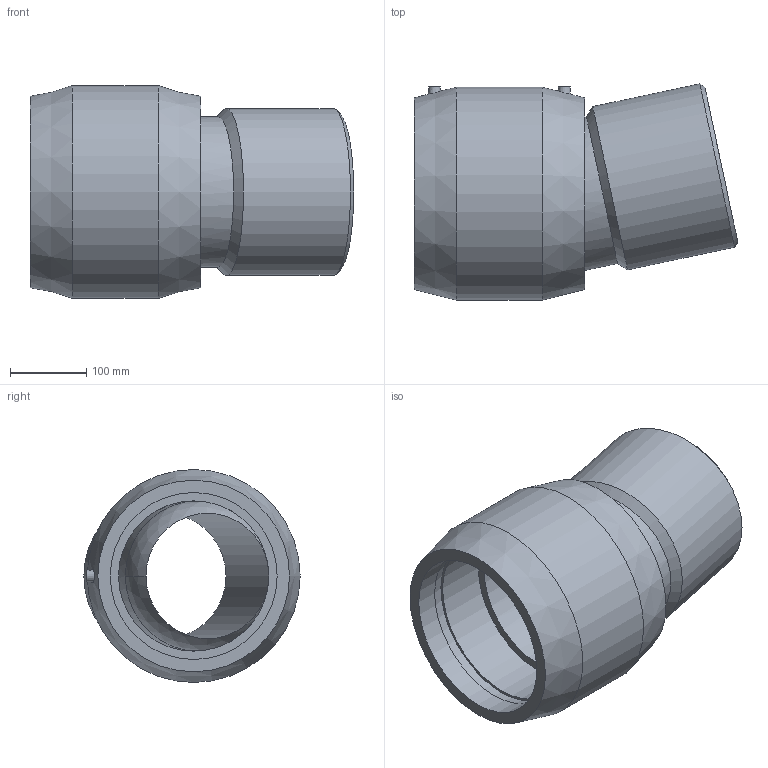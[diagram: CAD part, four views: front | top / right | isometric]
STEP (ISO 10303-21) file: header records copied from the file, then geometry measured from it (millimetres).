
FILE_DESCRIPTION(/* description */ ('PLASSON ADJUSTABLE ELBOW (ONE SIDE) ASTM 8'''' IPS'),/* implementation_level */ '2;1');
FILE_NAME(/* name */ 'C:\Dropbox\KIMPROJECTS-Inventor 2019\99-16-3568-Processing Inch\ASTM ElectroFusion 2021\5947BOS\5947B0S3080.ipt.stp',/* time_stamp */ '2021-08-30T09:53:11+03:00',/* author */ ('KIM'),/* organization */ (''),/* preprocessor_version */ 'ST-DEVELOPER v17.2',/* originating_system */ 'Autodesk Inventor 2019',/* authorisation */ '');
FILE_SCHEMA (('AUTOMOTIVE_DESIGN { 1 0 10303 214 3 1 1 }'));
Length unit declared in the file: inch
Products named in the file (1): 5947B0S3080
Bounding box: 423.78 x 283.32 x 278.89 mm (x, y, z)
Volume: 8728264.3 mm3; surface area: 673665.8 mm2
Topology: 1 solids, 1 shells, 32 faces, 74 edges, 51 vertices
Faces by surface type: cylinder 12, plane 11, cone 7, sphere 2
Full cylindrical faces by diameter (mm): 4 x2, 10 x2, 164.435 x1, 196.83 x2, 218.7 x3, 278.892 x1
Entity records: 1109 total; most frequent: CARTESIAN_POINT 280, DIRECTION 184, ORIENTED_EDGE 148, AXIS2_PLACEMENT_3D 83, EDGE_CURVE 74, VERTEX_POINT 51, CIRCLE 44, EDGE_LOOP 43
